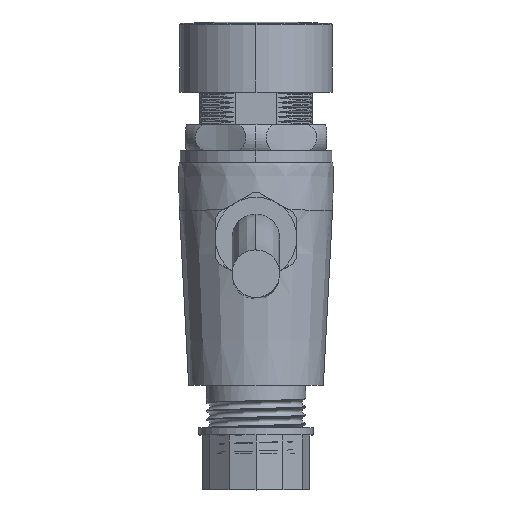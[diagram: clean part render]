
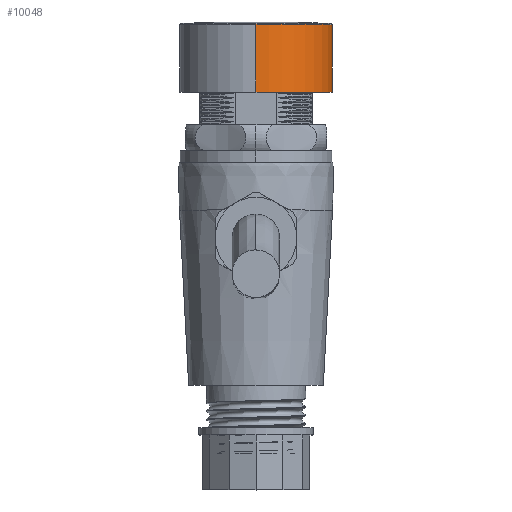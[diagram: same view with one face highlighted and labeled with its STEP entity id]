
A CAD part, top view. The second image highlights one B-rep face of the part: STEP entity #10048.
In plain terms, the highlighted cylindrical face has radius 16 mm (diameter 32 mm), a partial arc.
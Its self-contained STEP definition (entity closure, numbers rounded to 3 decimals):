
#842 = CARTESIAN_POINT ( 'NONE',  ( 0.042, 19.091, 16. ) ) ;
#1198 = CIRCLE ( 'NONE', #8742, 16. ) ;
#1798 = DIRECTION ( 'NONE',  ( 0., -1., 0. ) ) ;
#2146 = VERTEX_POINT ( 'NONE', #7061 ) ;
#2225 = DIRECTION ( 'NONE',  ( 0., -1., 0. ) ) ;
#2360 = DIRECTION ( 'NONE',  ( 0., 0., 1. ) ) ;
#2996 = LINE ( 'NONE', #6163, #9585 ) ;
#3087 = VERTEX_POINT ( 'NONE', #842 ) ;
#3107 = EDGE_CURVE ( 'NONE', #12676, #3087, #2996, .T. ) ;
#3202 = LINE ( 'NONE', #10514, #6680 ) ;
#3623 = CARTESIAN_POINT ( 'NONE',  ( 0.042, 33.303, -16. ) ) ;
#4074 = DIRECTION ( 'NONE',  ( 0., -1., 0. ) ) ;
#4161 = ORIENTED_EDGE ( 'NONE', *, *, #12819, .T. ) ;
#4321 = AXIS2_PLACEMENT_3D ( 'NONE', #4712, #12082, #7761 ) ;
#4712 = CARTESIAN_POINT ( 'NONE',  ( 0.042, 33.303, 0. ) ) ;
#5278 = EDGE_CURVE ( 'NONE', #2146, #3087, #1198, .T. ) ;
#5782 = AXIS2_PLACEMENT_3D ( 'NONE', #10531, #2225, #2360 ) ;
#5828 = ORIENTED_EDGE ( 'NONE', *, *, #11437, .F. ) ;
#5940 = EDGE_LOOP ( 'NONE', ( #5828, #4161, #7141, #12431 ) ) ;
#6163 = CARTESIAN_POINT ( 'NONE',  ( 0.042, 19.091, 16. ) ) ;
#6680 = VECTOR ( 'NONE', #4074, 1000. ) ;
#6818 = CARTESIAN_POINT ( 'NONE',  ( 0.042, 19.091, 0. ) ) ;
#7061 = CARTESIAN_POINT ( 'NONE',  ( 0.042, 19.091, -16. ) ) ;
#7141 = ORIENTED_EDGE ( 'NONE', *, *, #3107, .T. ) ;
#7761 = DIRECTION ( 'NONE',  ( 0., 0., -1. ) ) ;
#8068 = VERTEX_POINT ( 'NONE', #3623 ) ;
#8212 = CIRCLE ( 'NONE', #4321, 16. ) ;
#8742 = AXIS2_PLACEMENT_3D ( 'NONE', #6818, #9939, #10199 ) ;
#9346 = CARTESIAN_POINT ( 'NONE',  ( 0.042, 33.303, 16. ) ) ;
#9585 = VECTOR ( 'NONE', #1798, 1000. ) ;
#9939 = DIRECTION ( 'NONE',  ( 0., -1., 0. ) ) ;
#10048 = ADVANCED_FACE ( 'NONE', ( #11613 ), #10600, .T. ) ;
#10199 = DIRECTION ( 'NONE',  ( 0., 0., 1. ) ) ;
#10514 = CARTESIAN_POINT ( 'NONE',  ( 0.042, 19.091, -16. ) ) ;
#10531 = CARTESIAN_POINT ( 'NONE',  ( 0.042, 19.091, 0. ) ) ;
#10600 = CYLINDRICAL_SURFACE ( 'NONE', #5782, 16. ) ;
#11437 = EDGE_CURVE ( 'NONE', #8068, #2146, #3202, .T. ) ;
#11613 = FACE_OUTER_BOUND ( 'NONE', #5940, .T. ) ;
#12082 = DIRECTION ( 'NONE',  ( 0., -1., 0. ) ) ;
#12431 = ORIENTED_EDGE ( 'NONE', *, *, #5278, .F. ) ;
#12676 = VERTEX_POINT ( 'NONE', #9346 ) ;
#12819 = EDGE_CURVE ( 'NONE', #8068, #12676, #8212, .T. ) ;
